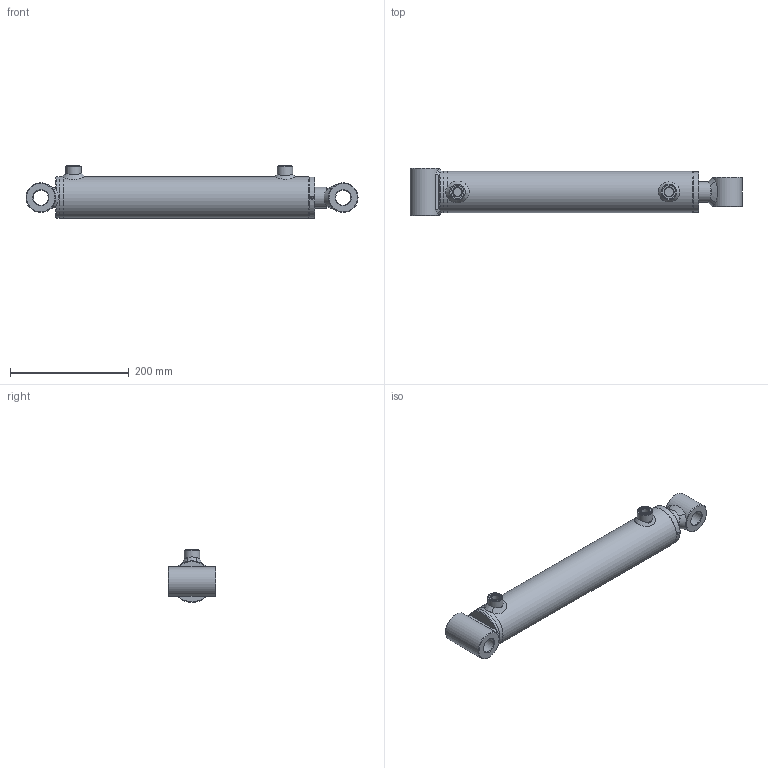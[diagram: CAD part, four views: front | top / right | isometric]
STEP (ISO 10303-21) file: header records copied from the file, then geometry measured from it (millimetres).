
FILE_DESCRIPTION( ( 'Unknown' ), '1' );
FILE_NAME( 'E:/LIBRERIA_3d/CILINDRI/HM2/HM23350300.stp', 'Unknown', ( 'Unknown' ), ( 'Unknown' ), 'PSStep 17.0.49', 'Unknown', ' ' );
FILE_SCHEMA( ( 'AUTOMOTIVE_DESIGN { 1 0 10303 214 1 1 1 1 }' ) );
Length unit declared in the file: millimetre
Products named in the file (26): CG07006035; CT00060020; STL3500300-oa6; Saldatura d'angolo 1-oa4; FTM3500300-oa5; CBSC220600; HM03350300; Saldatura con preparazione 1-oa2; Saldatura d'angolo 1-oa3; CF00060070; CBS0600000; CDA0002015; APG0600000; SBL3530300; Assem1; CB25050050; CB25050080; Saldatura d'angolo 1-oa0; Saldatura d'angolo 2-oa1
Assembly tree (18 placements, depth 4):
  Saldatura d'angolo 1-oa4
  Saldatura d'angolo 1-oa4
  Saldatura d'angolo 1-oa3
  Saldatura d'angolo 1-oa3
  Assem1
    CB25050050
    CB25050080
    HM03350300
      Saldatura con preparazione 1-oa2
      Saldatura con preparazione 1-oa2
      CF00060070
      CBS0600000
      CDA0002015
      APG0600000  x2
      SBL3530300
      CT00060020
        CT00060020
      STL3500300-oa6
        FTM3500300-oa5
        CBSC220600
      CG07006035
        CG07006035
Bounding box: 560 x 80 x 89 mm (x, y, z)
Volume: 1264734.3 mm3; surface area: 348870.6 mm2
Topology: 22 solids, 22 shells, 301 faces, 603 edges, 351 vertices
Faces by surface type: bspline 90, plane 74, cylinder 59, cone 40, torus 38
Full cylindrical faces by diameter (mm): 4.25 x1, 5 x2, 6 x2, 7 x2, 14.95 x2, 16 x2, 16.6 x2, 19.4 x1, 20 x5, 22 x2, 24.5 x1, 25.25 x2, 26 x2, 30 x1, 35 x4, 37 x1, 38 x1, 43.6 x1, 44 x1, 45 x1, 50 x2, 55 x1, 55.39 x2, 58.65 x2, 59.9 x1, 60 x1, 60.3 x1, 60.5 x1, 60.6 x1, 61 x1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
Entity records: 19384 total; most frequent: CARTESIAN_POINT 12216, DIRECTION 850, ORIENTED_EDGE 812, EDGE_LOOP 470, AXIS2_PLACEMENT_3D 407, EDGE_CURVE 406, FACE_OUTER_BOUND 388, VERTEX_POINT 301
